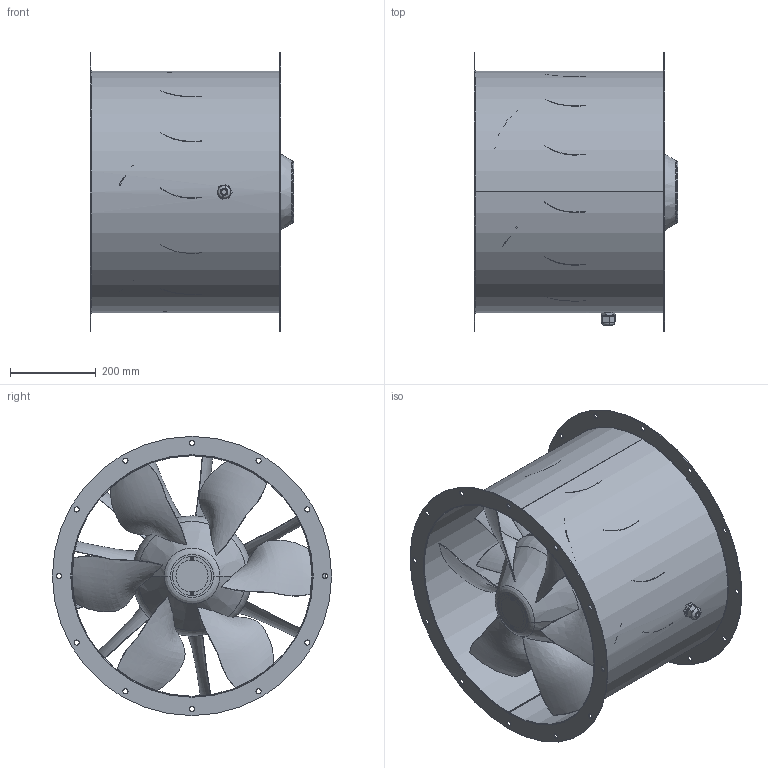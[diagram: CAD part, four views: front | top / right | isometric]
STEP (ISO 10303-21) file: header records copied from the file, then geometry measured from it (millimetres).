
FILE_DESCRIPTION (( 'STEP AP203' ), '1' );
FILE_NAME ('154160-00_AL560D402_step.step', '2020-05-29T11:32:12', ( '' ), ( '' ), 'SwSTEP 2.0', 'SolidWorks 2017', '' );
FILE_SCHEMA (( 'CONFIG_CONTROL_DESIGN' ));
Length unit declared in the file: millimetre
Products named in the file (1): 154160-00_AL560D402_step
Bounding box: 473.5 x 650 x 650 mm (x, y, z)
Surface area: 3152787.6 mm2 (no closed solid volume)
Topology: 0 solids, 74 shells, 1442 faces, 6215 edges, 4679 vertices
Faces by surface type: plane 644, cylinder 406, bspline 285, cone 77, torus 30
Entity records: 445929 total; most frequent: CARTESIAN_POINT 400953, ORIENTED_EDGE 8432, DIRECTION 7845, EDGE_CURVE 6208, VERTEX_POINT 4679, LINE 3163, VECTOR 3163, AXIS2_PLACEMENT_3D 2341
